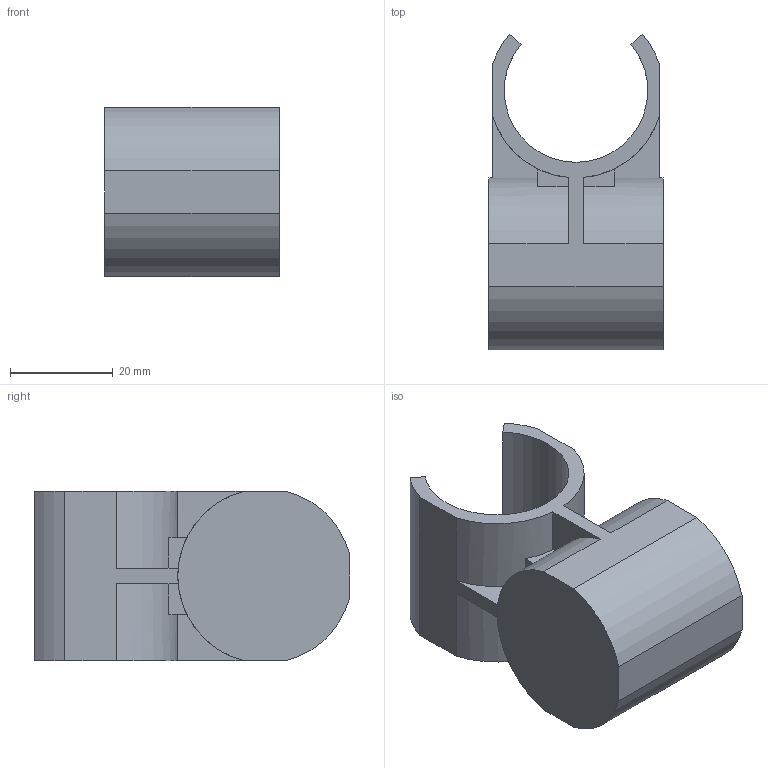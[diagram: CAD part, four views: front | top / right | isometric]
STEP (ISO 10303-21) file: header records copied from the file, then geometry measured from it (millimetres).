
FILE_DESCRIPTION (( 'STEP AP214' ), '1' );
FILE_NAME ('PJ-301.STEP', '2023-09-12T11:06:18', ( 'catia' ), ( 'HP Inc.' ), 'SwSTEP 2.0', 'SolidWorks 2021', '' );
FILE_SCHEMA (( 'AUTOMOTIVE_DESIGN' ));
Length unit declared in the file: millimetre
Products named in the file (1): PJ-301
Bounding box: 34 x 61.47 x 33 mm (x, y, z)
Volume: 19608.9 mm3; surface area: 13222.6 mm2
Topology: 1 solids, 1 shells, 41 faces, 114 edges, 76 vertices
Faces by surface type: plane 26, cylinder 15
Entity records: 1364 total; most frequent: DIRECTION 240, CARTESIAN_POINT 232, ORIENTED_EDGE 228, EDGE_CURVE 114, AXIS2_PLACEMENT_3D 84, VERTEX_POINT 76, VECTOR 72, LINE 72
